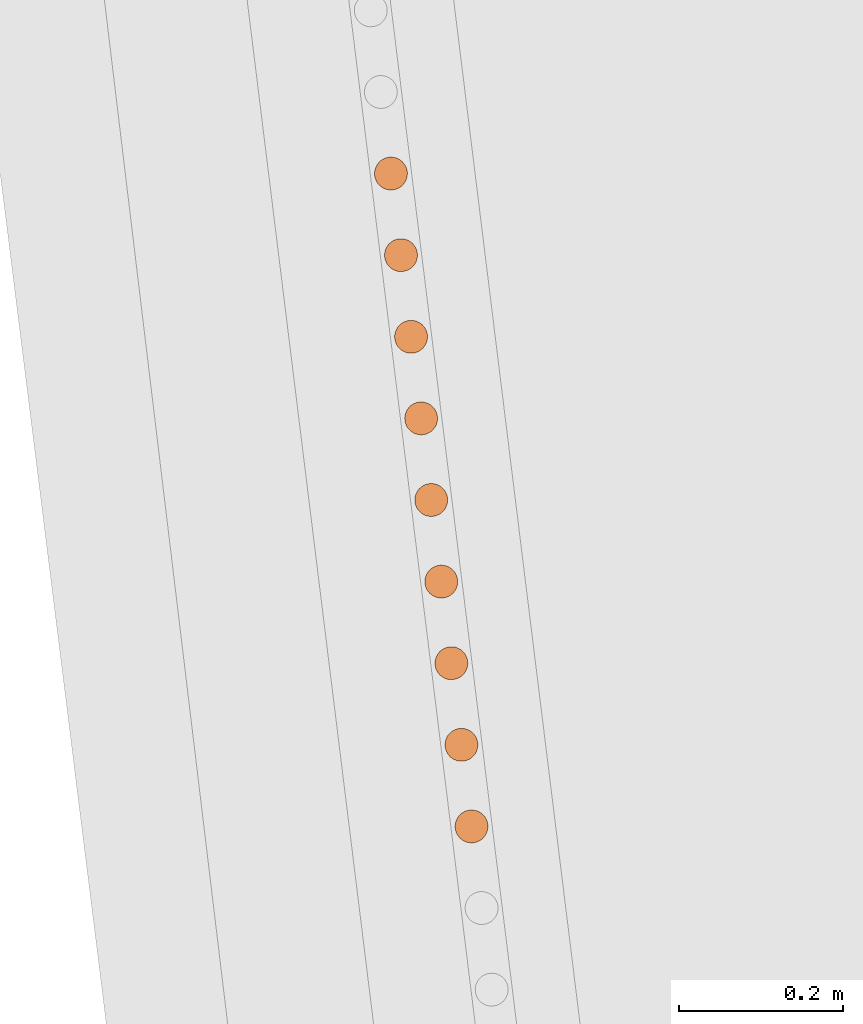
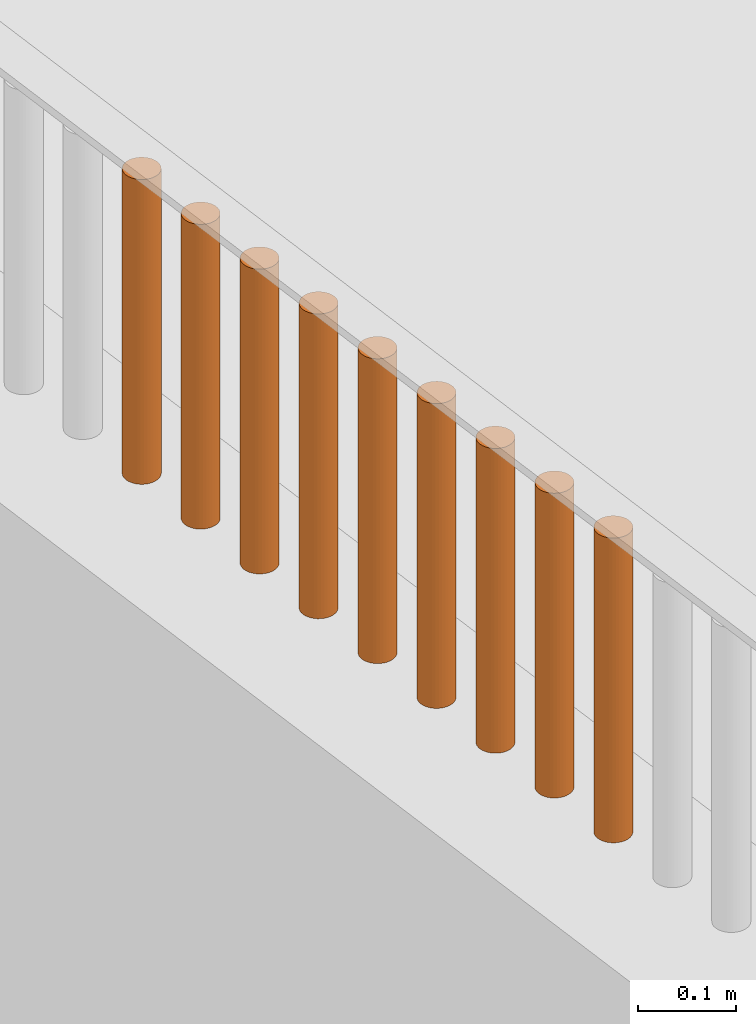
# One storey, part 220 of 1809: 9 proxies, 1 element without a shape of its own.
"""IFC2X3 building model written with IfcOpenShell, lengths in millimetres."""

from ifc_helpers import new_model, entity, si_unit, converted_unit, derived_unit, money_unit, direction, frame, origin_with_axes, place, context, subcontext, project, spatial, faceted_brep, source, transform, mapped, material, type_object, element, aggregate, save


model = new_model("IFC2X3")

# Units and contexts
model_context = context("Model", 3, precision=0.01, world=origin_with_axes(), true_north=direction((0.0, 1.0)))
body_context = subcontext(model_context, "Body", "Model", "MODEL_VIEW")
ifc_project = project(units=[si_unit("LENGTHUNIT", "METRE", prefix="MILLI"), si_unit("AREAUNIT", "SQUARE_METRE"), si_unit("VOLUMEUNIT", "CUBIC_METRE"), converted_unit("PLANEANGLEUNIT", "DEGREE", entity("IfcPlaneAngleMeasure", 0.0174532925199), si_unit("PLANEANGLEUNIT", "RADIAN"), dimensions=[0, 0, 0, 0, 0, 0, 0]), si_unit("SOLIDANGLEUNIT", "STERADIAN"), money_unit("EUR"), converted_unit("TIMEUNIT", "Year", entity("IfcTimeMeasure", 31556926.0), si_unit("TIMEUNIT", "SECOND"), dimensions=[0, 0, 1, 0, 0, 0, 0]), si_unit("MASSUNIT", "GRAM", prefix="KILO"), si_unit("THERMODYNAMICTEMPERATUREUNIT", "DEGREE_CELSIUS"), si_unit("LUMINOUSINTENSITYUNIT", "LUMEN"), si_unit("ENERGYUNIT", "JOULE", prefix="MEGA"), derived_unit("THERMALCONDUCTANCEUNIT", [(si_unit("POWERUNIT", "WATT"), 1), (si_unit("LENGTHUNIT", "METRE"), -1), (si_unit("THERMODYNAMICTEMPERATUREUNIT", "KELVIN"), -1)]), derived_unit("SPECIFICHEATCAPACITYUNIT", [(si_unit("ENERGYUNIT", "JOULE"), 1), (si_unit("MASSUNIT", "GRAM", prefix="KILO"), -1), (si_unit("THERMODYNAMICTEMPERATUREUNIT", "KELVIN"), -1)]), derived_unit("MASSDENSITYUNIT", [(si_unit("MASSUNIT", "GRAM", prefix="KILO"), 1), (si_unit("VOLUMEUNIT", "CUBIC_METRE"), -1)])], contexts=[model_context])

# Site, building, storey
site_placement = place(None, origin_with_axes())
site = spatial("IfcSite", under=ifc_project, at=site_placement, Name="Politse- ja Piirivalveameti ning Päästeameti ühishoone", CompositionType="ELEMENT")
building_placement = place(site_placement, origin_with_axes())
building = spatial("IfcBuilding", under=site, at=building_placement, Name="Politse- ja Piirivalveameti ning Päästeameti ühishoone", CompositionType="ELEMENT")
storey_placement = place(building_placement, origin_with_axes())
storey = spatial("IfcBuildingStorey", under=building, at=storey_placement, Name="Esimene korrus", CompositionType="ELEMENT", Elevation=0.0)

# Proxies
building_element_proxy_type_1 = type_object("IfcBuildingElementProxyType", Name="Railing Type", PredefinedType="NOTDEFINED")
proxy_1_placement = place(storey_placement, frame((-18956.5522504, -53688.4757966, 2100.0), z_axis=(0.0, 0.0, 1.0), x_axis=(1.0, 0.0, 0.0)))
proxy_1 = element("IfcBuildingElementProxy", 1, at=proxy_1_placement, inside=storey, type_object=building_element_proxy_type_1, Name="PIIRDEAED")
ifc_material = material(Name="ET-06_Teras - Konstruktsioon")
building_element_proxy_type_2 = type_object("IfcBuildingElementProxyType", Name="IfcBuildingElementProxy", PredefinedType="NOTDEFINED")
shared_shape_1 = source(origin_with_axes(), body_context, "Body", "Brep", [
    faceted_brep([(0.0, -20.0, 0.0), (3.47296355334, -19.6961550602, 0.0), (3.47296355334, -19.6961550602, 380.000012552), (0.0, -20.0, 380.000012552), (-3.47296355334, -19.6961550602, 0.0), (-6.84040286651, -18.7938524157, 0.0), (-10.0, -17.3205080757, 0.0), (-12.8557521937, -15.3208888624, 0.0), (-15.3208888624, -12.8557521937, 0.0), (-17.3205080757, -10.0, 0.0), (-18.7938524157, -6.84040286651, 0.0), (-19.6961550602, -3.47296355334, 0.0), (-20.0, 0.0, 0.0), (-19.6961550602, 3.47296355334, 0.0), (-18.7938524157, 6.84040286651, 0.0), (-17.3205080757, 10.0, 0.0), (-15.3208888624, 12.8557521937, 0.0), (-12.8557521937, 15.3208888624, 0.0), (-10.0, 17.3205080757, 0.0), (-6.84040286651, 18.7938524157, 0.0), (-3.47296355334, 19.6961550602, 0.0), (0.0, 20.0, 0.0), (3.47296355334, 19.6961550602, 0.0), (6.84040286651, 18.7938524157, 0.0), (10.0, 17.3205080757, 0.0), (12.8557521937, 15.3208888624, 0.0), (15.3208888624, 12.8557521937, 0.0), (17.3205080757, 10.0, 0.0), (18.7938524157, 6.84040286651, 0.0), (19.6961550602, 3.47296355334, 0.0), (20.0, 0.0, 0.0), (19.6961550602, -3.47296355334, 0.0), (18.7938524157, -6.84040286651, 0.0), (17.3205080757, -10.0, 0.0), (15.3208888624, -12.8557521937, 0.0), (12.8557521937, -15.3208888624, 0.0), (10.0, -17.3205080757, 0.0), (6.84040286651, -18.7938524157, 0.0), (6.84040286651, -18.7938524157, 380.000012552), (10.0, -17.3205080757, 380.000012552), (12.8557521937, -15.3208888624, 380.000012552), (15.3208888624, -12.8557521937, 380.000012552), (17.3205080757, -10.0, 380.000012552), (18.7938524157, -6.84040286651, 380.000012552), (19.6961550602, -3.47296355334, 380.000012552), (20.0, 0.0, 380.000012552), (19.6961550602, 3.47296355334, 380.000012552), (18.7938524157, 6.84040286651, 380.000012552), (17.3205080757, 10.0, 380.000012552), (15.3208888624, 12.8557521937, 380.000012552), (12.8557521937, 15.3208888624, 380.000012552), (10.0, 17.3205080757, 380.000012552), (6.84040286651, 18.7938524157, 380.000012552), (3.47296355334, 19.6961550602, 380.000012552), (0.0, 20.0, 380.000012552), (-3.47296355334, 19.6961550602, 380.000012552), (-6.84040286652, 18.7938524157, 380.000012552), (-10.0, 17.3205080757, 380.000012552), (-12.8557521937, 15.3208888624, 380.000012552), (-15.3208888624, 12.8557521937, 380.000012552), (-17.3205080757, 10.0, 380.000012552), (-18.7938524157, 6.84040286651, 380.000012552), (-19.6961550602, 3.47296355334, 380.000012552), (-20.0, 0.0, 380.000012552), (-19.6961550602, -3.47296355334, 380.000012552), (-18.7938524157, -6.84040286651, 380.000012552), (-17.3205080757, -10.0, 380.000012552), (-15.3208888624, -12.8557521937, 380.000012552), (-12.8557521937, -15.3208888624, 380.000012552), (-10.0, -17.3205080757, 380.000012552), (-6.84040286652, -18.7938524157, 380.000012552), (-3.47296355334, -19.6961550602, 380.000012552)], [[[0, 1, 2, 3]], [[0, 4, 5, 6, 7, 8, 9, 10, 11, 12, 13, 14, 15, 16, 17, 18, 19, 20, 21, 22, 23, 24, 25, 26, 27, 28, 29, 30, 31, 32, 33, 34, 35, 36, 37, 1]], [[1, 37, 38, 2]], [[3, 2, 38, 39, 40, 41, 42, 43, 44, 45, 46, 47, 48, 49, 50, 51, 52, 53, 54, 55, 56, 57, 58, 59, 60, 61, 62, 63, 64, 65, 66, 67, 68, 69, 70, 71]], [[4, 0, 3, 71]], [[5, 4, 71, 70]], [[6, 5, 70, 69]], [[7, 6, 69, 68]], [[8, 7, 68, 67]], [[9, 8, 67, 66]], [[10, 9, 66, 65]], [[11, 10, 65, 64]], [[12, 11, 64, 63]], [[13, 12, 63, 62]], [[14, 13, 62, 61]], [[15, 14, 61, 60]], [[16, 15, 60, 59]], [[17, 16, 59, 58]], [[18, 17, 58, 57]], [[19, 18, 57, 56]], [[20, 19, 56, 55]], [[21, 20, 55, 54]], [[22, 21, 54, 53]], [[23, 22, 53, 52]], [[24, 23, 52, 51]], [[25, 24, 51, 50]], [[26, 25, 50, 49]], [[27, 26, 49, 48]], [[28, 27, 48, 47]], [[29, 28, 47, 46]], [[30, 29, 46, 45]], [[31, 30, 45, 44]], [[32, 31, 44, 43]], [[33, 32, 43, 42]], [[34, 33, 42, 41]], [[35, 34, 41, 40]], [[36, 35, 40, 39]], [[37, 36, 39, 38]]]),
])
proxy_2_placement = place(proxy_1_placement, frame((-4342.97644758, 34350.7112497, -1.25517001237e-05), z_axis=(0.0, 0.0, 1.0), x_axis=(1.0, 0.0, 0.0)))
proxy_2 = element("IfcBuildingElementProxy", 2, at=proxy_2_placement, type_object=building_element_proxy_type_2, material=ifc_material, Name="BALUSTER - 001", context=body_context, shape_type="MappedRepresentation", body=[
    mapped(shared_shape_1, transform((0.0, 0.0, 0.0), x_axis=(0.992468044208, 0.122503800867, 0.0), y_axis=(-0.122503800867, 0.992468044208, 0.0), z_axis=(0.0, 0.0, 1.0))),
])
shared_shape_2 = source(origin_with_axes(), body_context, "Body", "Brep", [
    faceted_brep([(0.0, -20.0, 0.0), (3.47296355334, -19.6961550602, 0.0), (3.47296355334, -19.6961550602, 380.000012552), (0.0, -20.0, 380.000012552), (-3.47296355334, -19.6961550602, 0.0), (-6.84040286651, -18.7938524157, 0.0), (-10.0, -17.3205080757, 0.0), (-12.8557521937, -15.3208888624, 0.0), (-15.3208888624, -12.8557521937, 0.0), (-17.3205080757, -10.0, 0.0), (-18.7938524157, -6.84040286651, 0.0), (-19.6961550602, -3.47296355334, 0.0), (-20.0, 0.0, 0.0), (-19.6961550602, 3.47296355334, 0.0), (-18.7938524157, 6.84040286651, 0.0), (-17.3205080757, 10.0, 0.0), (-15.3208888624, 12.8557521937, 0.0), (-12.8557521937, 15.3208888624, 0.0), (-10.0, 17.3205080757, 0.0), (-6.84040286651, 18.7938524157, 0.0), (-3.47296355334, 19.6961550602, 0.0), (0.0, 20.0, 0.0), (3.47296355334, 19.6961550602, 0.0), (6.84040286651, 18.7938524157, 0.0), (10.0, 17.3205080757, 0.0), (12.8557521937, 15.3208888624, 0.0), (15.3208888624, 12.8557521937, 0.0), (17.3205080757, 10.0, 0.0), (18.7938524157, 6.84040286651, 0.0), (19.6961550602, 3.47296355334, 0.0), (20.0, 0.0, 0.0), (19.6961550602, -3.47296355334, 0.0), (18.7938524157, -6.84040286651, 0.0), (17.3205080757, -10.0, 0.0), (15.3208888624, -12.8557521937, 0.0), (12.8557521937, -15.3208888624, 0.0), (10.0, -17.3205080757, 0.0), (6.84040286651, -18.7938524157, 0.0), (6.84040286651, -18.7938524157, 380.000012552), (10.0, -17.3205080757, 380.000012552), (12.8557521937, -15.3208888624, 380.000012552), (15.3208888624, -12.8557521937, 380.000012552), (17.3205080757, -10.0, 380.000012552), (18.7938524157, -6.84040286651, 380.000012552), (19.6961550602, -3.47296355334, 380.000012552), (20.0, 0.0, 380.000012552), (19.6961550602, 3.47296355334, 380.000012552), (18.7938524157, 6.84040286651, 380.000012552), (17.3205080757, 10.0, 380.000012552), (15.3208888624, 12.8557521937, 380.000012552), (12.8557521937, 15.3208888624, 380.000012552), (10.0, 17.3205080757, 380.000012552), (6.84040286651, 18.7938524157, 380.000012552), (3.47296355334, 19.6961550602, 380.000012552), (0.0, 20.0, 380.000012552), (-3.47296355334, 19.6961550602, 380.000012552), (-6.84040286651, 18.7938524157, 380.000012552), (-10.0, 17.3205080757, 380.000012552), (-12.8557521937, 15.3208888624, 380.000012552), (-15.3208888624, 12.8557521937, 380.000012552), (-17.3205080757, 10.0, 380.000012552), (-18.7938524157, 6.84040286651, 380.000012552), (-19.6961550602, 3.47296355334, 380.000012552), (-20.0, 0.0, 380.000012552), (-19.6961550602, -3.47296355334, 380.000012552), (-18.7938524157, -6.84040286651, 380.000012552), (-17.3205080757, -10.0, 380.000012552), (-15.3208888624, -12.8557521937, 380.000012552), (-12.8557521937, -15.3208888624, 380.000012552), (-10.0, -17.3205080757, 380.000012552), (-6.84040286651, -18.7938524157, 380.000012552), (-3.47296355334, -19.6961550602, 380.000012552)], [[[0, 1, 2, 3]], [[0, 4, 5, 6, 7, 8, 9, 10, 11, 12, 13, 14, 15, 16, 17, 18, 19, 20, 21, 22, 23, 24, 25, 26, 27, 28, 29, 30, 31, 32, 33, 34, 35, 36, 37, 1]], [[1, 37, 38, 2]], [[3, 2, 38, 39, 40, 41, 42, 43, 44, 45, 46, 47, 48, 49, 50, 51, 52, 53, 54, 55, 56, 57, 58, 59, 60, 61, 62, 63, 64, 65, 66, 67, 68, 69, 70, 71]], [[4, 0, 3, 71]], [[5, 4, 71, 70]], [[6, 5, 70, 69]], [[7, 6, 69, 68]], [[8, 7, 68, 67]], [[9, 8, 67, 66]], [[10, 9, 66, 65]], [[11, 10, 65, 64]], [[12, 11, 64, 63]], [[13, 12, 63, 62]], [[14, 13, 62, 61]], [[15, 14, 61, 60]], [[16, 15, 60, 59]], [[17, 16, 59, 58]], [[18, 17, 58, 57]], [[19, 18, 57, 56]], [[20, 19, 56, 55]], [[21, 20, 55, 54]], [[22, 21, 54, 53]], [[23, 22, 53, 52]], [[24, 23, 52, 51]], [[25, 24, 51, 50]], [[26, 25, 50, 49]], [[27, 26, 49, 48]], [[28, 27, 48, 47]], [[29, 28, 47, 46]], [[30, 29, 46, 45]], [[31, 30, 45, 44]], [[32, 31, 44, 43]], [[33, 32, 43, 42]], [[34, 33, 42, 41]], [[35, 34, 41, 40]], [[36, 35, 40, 39]], [[37, 36, 39, 38]]]),
])
proxy_3_placement = place(proxy_1_placement, frame((-4355.22415249, 34449.9363812, -1.25517001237e-05), z_axis=(0.0, 0.0, 1.0), x_axis=(1.0, 0.0, 0.0)))
proxy_3 = element("IfcBuildingElementProxy", 3, at=proxy_3_placement, type_object=building_element_proxy_type_2, material=ifc_material, Name="BALUSTER - 001", context=body_context, shape_type="MappedRepresentation", body=[
    mapped(shared_shape_2, transform((0.0, 0.0, 0.0), x_axis=(0.992468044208, 0.122503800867, 0.0), y_axis=(-0.122503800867, 0.992468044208, 0.0), z_axis=(0.0, 0.0, 1.0))),
])
proxy_4_placement = place(proxy_1_placement, frame((-4379.71956232, 34648.386644, -1.25517001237e-05), z_axis=(0.0, 0.0, 1.0), x_axis=(1.0, 0.0, 0.0)))
proxy_4 = element("IfcBuildingElementProxy", 4, at=proxy_4_placement, type_object=building_element_proxy_type_2, material=ifc_material, Name="BALUSTER - 001", context=body_context, shape_type="MappedRepresentation", body=[
    mapped(shared_shape_2, transform((0.0, 0.0, 0.0), x_axis=(0.992468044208, 0.122503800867, 0.0), y_axis=(-0.122503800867, 0.992468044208, 0.0), z_axis=(0.0, 0.0, 1.0))),
])
shared_shape_3 = source(origin_with_axes(), body_context, "Body", "Brep", [
    faceted_brep([(0.0, -20.0, 0.0), (3.47296355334, -19.6961550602, 0.0), (3.47296355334, -19.6961550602, 380.000012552), (0.0, -20.0, 380.000012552), (-3.47296355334, -19.6961550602, 0.0), (-6.84040286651, -18.7938524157, 0.0), (-10.0, -17.3205080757, 0.0), (-12.8557521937, -15.3208888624, 0.0), (-15.3208888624, -12.8557521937, 0.0), (-17.3205080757, -10.0, 0.0), (-18.7938524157, -6.84040286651, 0.0), (-19.6961550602, -3.47296355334, 0.0), (-20.0, 0.0, 0.0), (-19.6961550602, 3.47296355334, 0.0), (-18.7938524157, 6.84040286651, 0.0), (-17.3205080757, 10.0, 0.0), (-15.3208888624, 12.8557521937, 0.0), (-12.8557521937, 15.3208888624, 0.0), (-10.0, 17.3205080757, 0.0), (-6.84040286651, 18.7938524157, 0.0), (-3.47296355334, 19.6961550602, 0.0), (0.0, 20.0, 0.0), (3.47296355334, 19.6961550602, 0.0), (6.84040286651, 18.7938524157, 0.0), (10.0, 17.3205080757, 0.0), (12.8557521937, 15.3208888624, 0.0), (15.3208888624, 12.8557521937, 0.0), (17.3205080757, 10.0, 0.0), (18.7938524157, 6.84040286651, 0.0), (19.6961550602, 3.47296355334, 0.0), (20.0, 0.0, 0.0), (19.6961550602, -3.47296355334, 0.0), (18.7938524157, -6.84040286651, 0.0), (17.3205080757, -10.0, 0.0), (15.3208888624, -12.8557521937, 0.0), (12.8557521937, -15.3208888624, 0.0), (10.0, -17.3205080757, 0.0), (6.84040286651, -18.7938524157, 0.0), (6.84040286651, -18.7938524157, 380.000012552), (10.0, -17.3205080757, 380.000012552), (12.8557521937, -15.3208888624, 380.000012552), (15.3208888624, -12.8557521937, 380.000012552), (17.3205080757, -10.0, 380.000012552), (18.7938524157, -6.84040286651, 380.000012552), (19.6961550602, -3.47296355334, 380.000012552), (20.0, 0.0, 380.000012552), (19.6961550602, 3.47296355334, 380.000012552), (18.7938524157, 6.84040286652, 380.000012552), (17.3205080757, 10.0, 380.000012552), (15.3208888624, 12.8557521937, 380.000012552), (12.8557521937, 15.3208888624, 380.000012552), (10.0, 17.3205080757, 380.000012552), (6.84040286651, 18.7938524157, 380.000012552), (3.47296355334, 19.6961550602, 380.000012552), (0.0, 20.0, 380.000012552), (-3.47296355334, 19.6961550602, 380.000012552), (-6.84040286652, 18.7938524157, 380.000012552), (-10.0, 17.3205080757, 380.000012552), (-12.8557521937, 15.3208888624, 380.000012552), (-15.3208888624, 12.8557521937, 380.000012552), (-17.3205080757, 10.0, 380.000012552), (-18.7938524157, 6.84040286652, 380.000012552), (-19.6961550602, 3.47296355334, 380.000012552), (-20.0, 0.0, 380.000012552), (-19.6961550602, -3.47296355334, 380.000012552), (-18.7938524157, -6.84040286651, 380.000012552), (-17.3205080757, -10.0, 380.000012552), (-15.3208888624, -12.8557521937, 380.000012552), (-12.8557521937, -15.3208888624, 380.000012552), (-10.0, -17.3205080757, 380.000012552), (-6.84040286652, -18.7938524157, 380.000012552), (-3.47296355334, -19.6961550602, 380.000012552)], [[[0, 1, 2, 3]], [[0, 4, 5, 6, 7, 8, 9, 10, 11, 12, 13, 14, 15, 16, 17, 18, 19, 20, 21, 22, 23, 24, 25, 26, 27, 28, 29, 30, 31, 32, 33, 34, 35, 36, 37, 1]], [[1, 37, 38, 2]], [[3, 2, 38, 39, 40, 41, 42, 43, 44, 45, 46, 47, 48, 49, 50, 51, 52, 53, 54, 55, 56, 57, 58, 59, 60, 61, 62, 63, 64, 65, 66, 67, 68, 69, 70, 71]], [[4, 0, 3, 71]], [[5, 4, 71, 70]], [[6, 5, 70, 69]], [[7, 6, 69, 68]], [[8, 7, 68, 67]], [[9, 8, 67, 66]], [[10, 9, 66, 65]], [[11, 10, 65, 64]], [[12, 11, 64, 63]], [[13, 12, 63, 62]], [[14, 13, 62, 61]], [[15, 14, 61, 60]], [[16, 15, 60, 59]], [[17, 16, 59, 58]], [[18, 17, 58, 57]], [[19, 18, 57, 56]], [[20, 19, 56, 55]], [[21, 20, 55, 54]], [[22, 21, 54, 53]], [[23, 22, 53, 52]], [[24, 23, 52, 51]], [[25, 24, 51, 50]], [[26, 25, 50, 49]], [[27, 26, 49, 48]], [[28, 27, 48, 47]], [[29, 28, 47, 46]], [[30, 29, 46, 45]], [[31, 30, 45, 44]], [[32, 31, 44, 43]], [[33, 32, 43, 42]], [[34, 33, 42, 41]], [[35, 34, 41, 40]], [[36, 35, 40, 39]], [[37, 36, 39, 38]]]),
])
proxy_5_placement = place(proxy_1_placement, frame((-4330.72874266, 34251.4861183, -1.25517001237e-05), z_axis=(0.0, 0.0, 1.0), x_axis=(1.0, 0.0, 0.0)))
proxy_5 = element("IfcBuildingElementProxy", 5, at=proxy_5_placement, type_object=building_element_proxy_type_2, material=ifc_material, Name="BALUSTER - 001", context=body_context, shape_type="MappedRepresentation", body=[
    mapped(shared_shape_3, transform((0.0, 0.0, 0.0), x_axis=(0.992468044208, 0.122503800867, 0.0), y_axis=(-0.122503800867, 0.992468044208, 0.0), z_axis=(0.0, 0.0, 1.0))),
])
shared_shape_4 = source(origin_with_axes(), body_context, "Body", "Brep", [
    faceted_brep([(0.0, -20.0, 0.0), (3.47296355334, -19.6961550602, 0.0), (3.47296355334, -19.6961550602, 380.000012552), (0.0, -20.0, 380.000012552), (-3.47296355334, -19.6961550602, 0.0), (-6.84040286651, -18.7938524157, 0.0), (-10.0, -17.3205080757, 0.0), (-12.8557521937, -15.3208888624, 0.0), (-15.3208888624, -12.8557521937, 0.0), (-17.3205080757, -10.0, 0.0), (-18.7938524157, -6.84040286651, 0.0), (-19.6961550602, -3.47296355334, 0.0), (-20.0, 0.0, 0.0), (-19.6961550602, 3.47296355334, 0.0), (-18.7938524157, 6.84040286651, 0.0), (-17.3205080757, 10.0, 0.0), (-15.3208888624, 12.8557521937, 0.0), (-12.8557521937, 15.3208888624, 0.0), (-10.0, 17.3205080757, 0.0), (-6.84040286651, 18.7938524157, 0.0), (-3.47296355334, 19.6961550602, 0.0), (0.0, 20.0, 0.0), (3.47296355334, 19.6961550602, 0.0), (6.84040286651, 18.7938524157, 0.0), (10.0, 17.3205080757, 0.0), (12.8557521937, 15.3208888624, 0.0), (15.3208888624, 12.8557521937, 0.0), (17.3205080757, 10.0, 0.0), (18.7938524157, 6.84040286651, 0.0), (19.6961550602, 3.47296355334, 0.0), (20.0, 0.0, 0.0), (19.6961550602, -3.47296355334, 0.0), (18.7938524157, -6.84040286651, 0.0), (17.3205080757, -10.0, 0.0), (15.3208888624, -12.8557521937, 0.0), (12.8557521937, -15.3208888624, 0.0), (10.0, -17.3205080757, 0.0), (6.84040286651, -18.7938524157, 0.0), (6.84040286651, -18.7938524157, 380.000012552), (10.0, -17.3205080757, 380.000012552), (12.8557521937, -15.3208888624, 380.000012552), (15.3208888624, -12.8557521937, 380.000012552), (17.3205080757, -10.0, 380.000012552), (18.7938524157, -6.84040286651, 380.000012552), (19.6961550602, -3.47296355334, 380.000012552), (20.0, 0.0, 380.000012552), (19.6961550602, 3.47296355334, 380.000012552), (18.7938524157, 6.84040286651, 380.000012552), (17.3205080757, 10.0, 380.000012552), (15.3208888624, 12.8557521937, 380.000012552), (12.8557521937, 15.3208888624, 380.000012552), (10.0, 17.3205080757, 380.000012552), (6.84040286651, 18.7938524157, 380.000012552), (3.47296355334, 19.6961550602, 380.000012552), (0.0, 20.0, 380.000012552), (-3.47296355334, 19.6961550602, 380.000012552), (-6.84040286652, 18.7938524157, 380.000012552), (-10.0, 17.3205080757, 380.000012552), (-12.8557521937, 15.3208888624, 380.000012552), (-15.3208888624, 12.8557521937, 380.000012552), (-17.3205080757, 10.0, 380.000012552), (-18.7938524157, 6.84040286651, 380.000012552), (-19.6961550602, 3.47296355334, 380.000012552), (-20.0, 0.0, 380.000012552), (-19.6961550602, -3.47296355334, 380.000012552), (-18.7938524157, -6.84040286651, 380.000012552), (-17.3205080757, -10.0, 380.000012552), (-15.3208888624, -12.8557521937, 380.000012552), (-12.8557521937, -15.3208888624, 380.000012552), (-10.0, -17.3205080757, 380.000012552), (-6.84040286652, -18.7938524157, 380.000012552), (-3.47296355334, -19.6961550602, 380.000012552)], [[[0, 1, 2, 3]], [[0, 4, 5, 6, 7, 8, 9, 10, 11, 12, 13, 14, 15, 16, 17, 18, 19, 20, 21, 22, 23, 24, 25, 26, 27, 28, 29, 30, 31, 32, 33, 34, 35, 36, 37, 1]], [[1, 37, 38, 2]], [[3, 2, 38, 39, 40, 41, 42, 43, 44, 45, 46, 47, 48, 49, 50, 51, 52, 53, 54, 55, 56, 57, 58, 59, 60, 61, 62, 63, 64, 65, 66, 67, 68, 69, 70, 71]], [[4, 0, 3, 71]], [[5, 4, 71, 70]], [[6, 5, 70, 69]], [[7, 6, 69, 68]], [[8, 7, 68, 67]], [[9, 8, 67, 66]], [[10, 9, 66, 65]], [[11, 10, 65, 64]], [[12, 11, 64, 63]], [[13, 12, 63, 62]], [[14, 13, 62, 61]], [[15, 14, 61, 60]], [[16, 15, 60, 59]], [[17, 16, 59, 58]], [[18, 17, 58, 57]], [[19, 18, 57, 56]], [[20, 19, 56, 55]], [[21, 20, 55, 54]], [[22, 21, 54, 53]], [[23, 22, 53, 52]], [[24, 23, 52, 51]], [[25, 24, 51, 50]], [[26, 25, 50, 49]], [[27, 26, 49, 48]], [[28, 27, 48, 47]], [[29, 28, 47, 46]], [[30, 29, 46, 45]], [[31, 30, 45, 44]], [[32, 31, 44, 43]], [[33, 32, 43, 42]], [[34, 33, 42, 41]], [[35, 34, 41, 40]], [[36, 35, 40, 39]], [[37, 36, 39, 38]]]),
])
proxy_6_placement = place(proxy_1_placement, frame((-4367.4718574, 34549.1615126, -1.25517001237e-05), z_axis=(0.0, 0.0, 1.0), x_axis=(1.0, 0.0, 0.0)))
proxy_6 = element("IfcBuildingElementProxy", 6, at=proxy_6_placement, type_object=building_element_proxy_type_2, material=ifc_material, Name="BALUSTER - 001", context=body_context, shape_type="MappedRepresentation", body=[
    mapped(shared_shape_4, transform((0.0, 0.0, 0.0), x_axis=(0.992468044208, 0.122503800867, 0.0), y_axis=(-0.122503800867, 0.992468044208, 0.0), z_axis=(0.0, 0.0, 1.0))),
])
shared_shape_5 = source(origin_with_axes(), body_context, "Body", "Brep", [
    faceted_brep([(0.0, -20.0, 0.0), (3.47296355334, -19.6961550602, 0.0), (3.47296355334, -19.6961550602, 380.000012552), (0.0, -20.0, 380.000012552), (-3.47296355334, -19.6961550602, 0.0), (-6.84040286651, -18.7938524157, 0.0), (-10.0, -17.3205080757, 0.0), (-12.8557521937, -15.3208888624, 0.0), (-15.3208888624, -12.8557521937, 0.0), (-17.3205080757, -10.0, 0.0), (-18.7938524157, -6.84040286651, 0.0), (-19.6961550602, -3.47296355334, 0.0), (-20.0, 0.0, 0.0), (-19.6961550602, 3.47296355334, 0.0), (-18.7938524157, 6.84040286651, 0.0), (-17.3205080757, 10.0, 0.0), (-15.3208888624, 12.8557521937, 0.0), (-12.8557521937, 15.3208888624, 0.0), (-10.0, 17.3205080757, 0.0), (-6.84040286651, 18.7938524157, 0.0), (-3.47296355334, 19.6961550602, 0.0), (0.0, 20.0, 0.0), (3.47296355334, 19.6961550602, 0.0), (6.84040286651, 18.7938524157, 0.0), (10.0, 17.3205080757, 0.0), (12.8557521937, 15.3208888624, 0.0), (15.3208888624, 12.8557521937, 0.0), (17.3205080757, 10.0, 0.0), (18.7938524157, 6.84040286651, 0.0), (19.6961550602, 3.47296355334, 0.0), (20.0, 0.0, 0.0), (19.6961550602, -3.47296355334, 0.0), (18.7938524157, -6.84040286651, 0.0), (17.3205080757, -10.0, 0.0), (15.3208888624, -12.8557521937, 0.0), (12.8557521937, -15.3208888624, 0.0), (10.0, -17.3205080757, 0.0), (6.84040286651, -18.7938524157, 0.0), (6.84040286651, -18.7938524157, 380.000012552), (10.0, -17.3205080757, 380.000012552), (12.8557521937, -15.3208888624, 380.000012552), (15.3208888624, -12.8557521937, 380.000012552), (17.3205080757, -10.0, 380.000012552), (18.7938524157, -6.84040286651, 380.000012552), (19.6961550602, -3.47296355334, 380.000012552), (20.0, 0.0, 380.000012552), (19.6961550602, 3.47296355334, 380.000012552), (18.7938524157, 6.84040286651, 380.000012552), (17.3205080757, 10.0, 380.000012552), (15.3208888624, 12.8557521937, 380.000012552), (12.8557521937, 15.3208888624, 380.000012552), (10.0, 17.3205080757, 380.000012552), (6.84040286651, 18.7938524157, 380.000012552), (3.47296355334, 19.6961550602, 380.000012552), (0.0, 20.0, 380.000012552), (-3.47296355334, 19.6961550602, 380.000012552), (-6.84040286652, 18.7938524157, 380.000012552), (-10.0, 17.3205080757, 380.000012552), (-12.8557521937, 15.3208888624, 380.000012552), (-15.3208888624, 12.8557521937, 380.000012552), (-17.3205080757, 10.0, 380.000012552), (-18.7938524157, 6.84040286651, 380.000012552), (-19.6961550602, 3.47296355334, 380.000012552), (-20.0, 0.0, 380.000012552), (-19.6961550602, -3.47296355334, 380.000012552), (-18.7938524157, -6.84040286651, 380.000012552), (-17.3205080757, -10.0, 380.000012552), (-15.3208888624, -12.8557521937, 380.000012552), (-12.8557521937, -15.3208888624, 380.000012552), (-10.0, -17.3205080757, 380.000012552), (-6.84040286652, -18.7938524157, 380.000012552), (-3.47296355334, -19.6961550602, 380.000012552)], [[[0, 1, 2, 3]], [[0, 4, 5, 6, 7, 8, 9, 10, 11, 12, 13, 14, 15, 16, 17, 18, 19, 20, 21, 22, 23, 24, 25, 26, 27, 28, 29, 30, 31, 32, 33, 34, 35, 36, 37, 1]], [[1, 37, 38, 2]], [[3, 2, 38, 39, 40, 41, 42, 43, 44, 45, 46, 47, 48, 49, 50, 51, 52, 53, 54, 55, 56, 57, 58, 59, 60, 61, 62, 63, 64, 65, 66, 67, 68, 69, 70, 71]], [[4, 0, 3, 71]], [[5, 4, 71, 70]], [[6, 5, 70, 69]], [[7, 6, 69, 68]], [[8, 7, 68, 67]], [[9, 8, 67, 66]], [[10, 9, 66, 65]], [[11, 10, 65, 64]], [[12, 11, 64, 63]], [[13, 12, 63, 62]], [[14, 13, 62, 61]], [[15, 14, 61, 60]], [[16, 15, 60, 59]], [[17, 16, 59, 58]], [[18, 17, 58, 57]], [[19, 18, 57, 56]], [[20, 19, 56, 55]], [[21, 20, 55, 54]], [[22, 21, 54, 53]], [[23, 22, 53, 52]], [[24, 23, 52, 51]], [[25, 24, 51, 50]], [[26, 25, 50, 49]], [[27, 26, 49, 48]], [[28, 27, 48, 47]], [[29, 28, 47, 46]], [[30, 29, 46, 45]], [[31, 30, 45, 44]], [[32, 31, 44, 43]], [[33, 32, 43, 42]], [[34, 33, 42, 41]], [[35, 34, 41, 40]], [[36, 35, 40, 39]], [[37, 36, 39, 38]]]),
])
proxy_7_placement = place(proxy_1_placement, frame((-4293.98562793, 33953.810724, -1.25517001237e-05), z_axis=(0.0, 0.0, 1.0), x_axis=(1.0, 0.0, 0.0)))
proxy_7 = element("IfcBuildingElementProxy", 7, at=proxy_7_placement, type_object=building_element_proxy_type_2, material=ifc_material, Name="BALUSTER - 001", context=body_context, shape_type="MappedRepresentation", body=[
    mapped(shared_shape_5, transform((0.0, 0.0, 0.0), x_axis=(0.992468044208, 0.122503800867, 0.0), y_axis=(-0.122503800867, 0.992468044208, 0.0), z_axis=(0.0, 0.0, 1.0))),
])
proxy_8_placement = place(proxy_1_placement, frame((-4306.23333284, 34053.0358555, -1.25517001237e-05), z_axis=(0.0, 0.0, 1.0), x_axis=(1.0, 0.0, 0.0)))
proxy_8 = element("IfcBuildingElementProxy", 8, at=proxy_8_placement, type_object=building_element_proxy_type_2, material=ifc_material, Name="BALUSTER - 001", context=body_context, shape_type="MappedRepresentation", body=[
    mapped(shared_shape_5, transform((0.0, 0.0, 0.0), x_axis=(0.992468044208, 0.122503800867, 0.0), y_axis=(-0.122503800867, 0.992468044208, 0.0), z_axis=(0.0, 0.0, 1.0))),
])
proxy_9_placement = place(proxy_1_placement, frame((-4318.48103775, 34152.2609869, -1.25517001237e-05), z_axis=(0.0, 0.0, 1.0), x_axis=(1.0, 0.0, 0.0)))
proxy_9 = element("IfcBuildingElementProxy", 9, at=proxy_9_placement, type_object=building_element_proxy_type_2, material=ifc_material, Name="BALUSTER - 001", context=body_context, shape_type="MappedRepresentation", body=[
    mapped(shared_shape_5, transform((0.0, 0.0, 0.0), x_axis=(0.992468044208, 0.122503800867, 0.0), y_axis=(-0.122503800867, 0.992468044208, 0.0), z_axis=(0.0, 0.0, 1.0))),
])
shared_shape_6 = source(origin_with_axes(), body_context, "Body", "Brep", [
    faceted_brep([(0.0, -20.0, 0.0), (3.47296355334, -19.6961550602, 0.0), (3.47296355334, -19.6961550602, 380.000012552), (0.0, -20.0, 380.000012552), (-3.47296355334, -19.6961550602, 0.0), (-6.84040286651, -18.7938524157, 0.0), (-10.0, -17.3205080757, 0.0), (-12.8557521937, -15.3208888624, 0.0), (-15.3208888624, -12.8557521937, 0.0), (-17.3205080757, -10.0, 0.0), (-18.7938524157, -6.84040286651, 0.0), (-19.6961550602, -3.47296355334, 0.0), (-20.0, 0.0, 0.0), (-19.6961550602, 3.47296355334, 0.0), (-18.7938524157, 6.84040286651, 0.0), (-17.3205080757, 10.0, 0.0), (-15.3208888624, 12.8557521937, 0.0), (-12.8557521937, 15.3208888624, 0.0), (-10.0, 17.3205080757, 0.0), (-6.84040286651, 18.7938524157, 0.0), (-3.47296355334, 19.6961550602, 0.0), (0.0, 20.0, 0.0), (3.47296355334, 19.6961550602, 0.0), (6.84040286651, 18.7938524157, 0.0), (10.0, 17.3205080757, 0.0), (12.8557521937, 15.3208888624, 0.0), (15.3208888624, 12.8557521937, 0.0), (17.3205080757, 10.0, 0.0), (18.7938524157, 6.84040286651, 0.0), (19.6961550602, 3.47296355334, 0.0), (20.0, 0.0, 0.0), (19.6961550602, -3.47296355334, 0.0), (18.7938524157, -6.84040286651, 0.0), (17.3205080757, -10.0, 0.0), (15.3208888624, -12.8557521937, 0.0), (12.8557521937, -15.3208888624, 0.0), (10.0, -17.3205080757, 0.0), (6.84040286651, -18.7938524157, 0.0), (6.84040286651, -18.7938524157, 380.000012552), (10.0, -17.3205080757, 380.000012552), (12.8557521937, -15.3208888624, 380.000012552), (15.3208888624, -12.8557521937, 380.000012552), (17.3205080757, -10.0, 380.000012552), (18.7938524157, -6.84040286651, 380.000012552), (19.6961550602, -3.47296355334, 380.000012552), (20.0, 0.0, 380.000012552), (19.6961550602, 3.47296355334, 380.000012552), (18.7938524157, 6.84040286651, 380.000012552), (17.3205080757, 10.0, 380.000012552), (15.3208888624, 12.8557521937, 380.000012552), (12.8557521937, 15.3208888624, 380.000012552), (10.0, 17.3205080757, 380.000012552), (6.84040286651, 18.7938524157, 380.000012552), (3.47296355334, 19.6961550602, 380.000012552), (0.0, 20.0, 380.000012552), (-3.47296355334, 19.6961550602, 380.000012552), (-6.84040286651, 18.7938524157, 380.000012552), (-10.0, 17.3205080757, 380.000012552), (-12.8557521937, 15.3208888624, 380.000012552), (-15.3208888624, 12.8557521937, 380.000012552), (-17.3205080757, 10.0, 380.000012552), (-18.7938524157, 6.84040286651, 380.000012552), (-19.6961550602, 3.47296355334, 380.000012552), (-20.0, 0.0, 380.000012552), (-19.6961550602, -3.47296355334, 380.000012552), (-18.7938524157, -6.84040286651, 380.000012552), (-17.3205080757, -10.0, 380.000012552), (-15.3208888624, -12.8557521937, 380.000012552), (-12.8557521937, -15.3208888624, 380.000012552), (-10.0, -17.3205080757, 380.000012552), (-6.84040286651, -18.7938524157, 380.000012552), (-3.47296355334, -19.6961550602, 380.000012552)], [[[0, 1, 2, 3]], [[0, 4, 5, 6, 7, 8, 9, 10, 11, 12, 13, 14, 15, 16, 17, 18, 19, 20, 21, 22, 23, 24, 25, 26, 27, 28, 29, 30, 31, 32, 33, 34, 35, 36, 37, 1]], [[1, 37, 38, 2]], [[3, 2, 38, 39, 40, 41, 42, 43, 44, 45, 46, 47, 48, 49, 50, 51, 52, 53, 54, 55, 56, 57, 58, 59, 60, 61, 62, 63, 64, 65, 66, 67, 68, 69, 70, 71]], [[4, 0, 3, 71]], [[5, 4, 71, 70]], [[6, 5, 70, 69]], [[7, 6, 69, 68]], [[8, 7, 68, 67]], [[9, 8, 67, 66]], [[10, 9, 66, 65]], [[11, 10, 65, 64]], [[12, 11, 64, 63]], [[13, 12, 63, 62]], [[14, 13, 62, 61]], [[15, 14, 61, 60]], [[16, 15, 60, 59]], [[17, 16, 59, 58]], [[18, 17, 58, 57]], [[19, 18, 57, 56]], [[20, 19, 56, 55]], [[21, 20, 55, 54]], [[22, 21, 54, 53]], [[23, 22, 53, 52]], [[24, 23, 52, 51]], [[25, 24, 51, 50]], [[26, 25, 50, 49]], [[27, 26, 49, 48]], [[28, 27, 48, 47]], [[29, 28, 47, 46]], [[30, 29, 46, 45]], [[31, 30, 45, 44]], [[32, 31, 44, 43]], [[33, 32, 43, 42]], [[34, 33, 42, 41]], [[35, 34, 41, 40]], [[36, 35, 40, 39]], [[37, 36, 39, 38]]]),
])
proxy_10_placement = place(proxy_1_placement, frame((-4281.73792301, 33854.5855926, -1.25517001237e-05), z_axis=(0.0, 0.0, 1.0), x_axis=(1.0, 0.0, 0.0)))
proxy_10 = element("IfcBuildingElementProxy", 10, at=proxy_10_placement, type_object=building_element_proxy_type_2, material=ifc_material, Name="BALUSTER - 001", context=body_context, shape_type="MappedRepresentation", body=[
    mapped(shared_shape_6, transform((0.0, 0.0, 0.0), x_axis=(0.992468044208, 0.122503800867, 0.0), y_axis=(-0.122503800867, 0.992468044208, 0.0), z_axis=(0.0, 0.0, 1.0))),
])
aggregate(proxy_1, [proxy_10, proxy_7, proxy_8, proxy_9, proxy_5, proxy_2, proxy_3, proxy_6, proxy_4])

save(model, "model.ifc")
